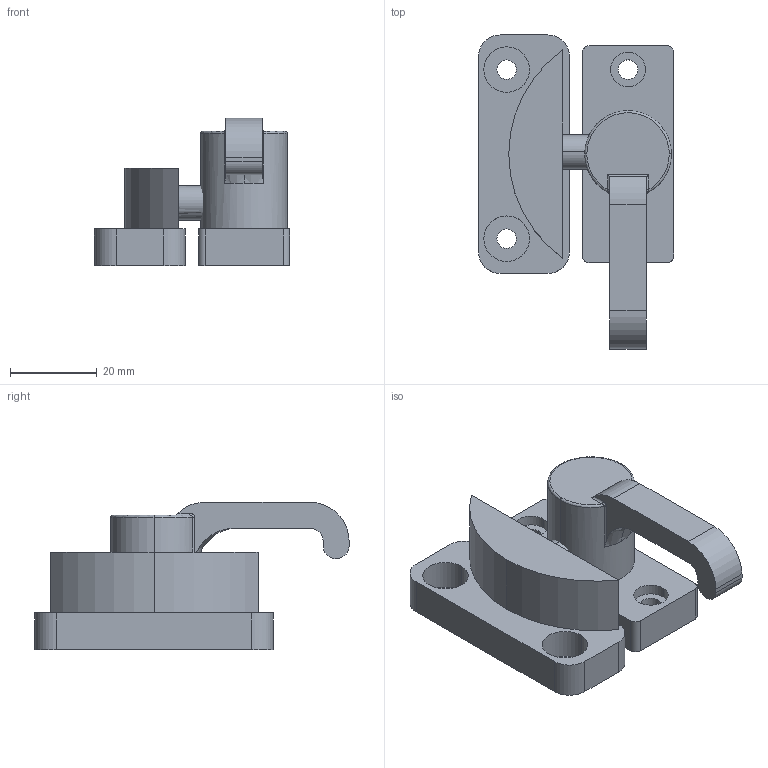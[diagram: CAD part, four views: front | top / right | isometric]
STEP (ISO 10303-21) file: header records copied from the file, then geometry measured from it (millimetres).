
FILE_DESCRIPTION (( 'STEP AP203' ), '1' );
FILE_NAME ('084.517.001.STEP', '2018-03-09T13:58:32', ( '' ), ( '' ), 'SwSTEP 2.0', 'SolidWorks 2016', '' );
FILE_SCHEMA (( 'CONFIG_CONTROL_DESIGN' ));
Length unit declared in the file: millimetre
Products named in the file (1): 084.517.001
Bounding box: 45 x 72.5 x 34 mm (x, y, z)
Surface area: 14910.5 mm2 (no closed solid volume)
Topology: 0 solids, 3 shells, 93 faces, 238 edges, 156 vertices
Faces by surface type: cylinder 50, plane 36, bspline 7
Entity records: 3442 total; most frequent: CARTESIAN_POINT 1080, DIRECTION 485, ORIENTED_EDGE 470, EDGE_CURVE 238, AXIS2_PLACEMENT_3D 183, VERTEX_POINT 156, LINE 119, VECTOR 119
